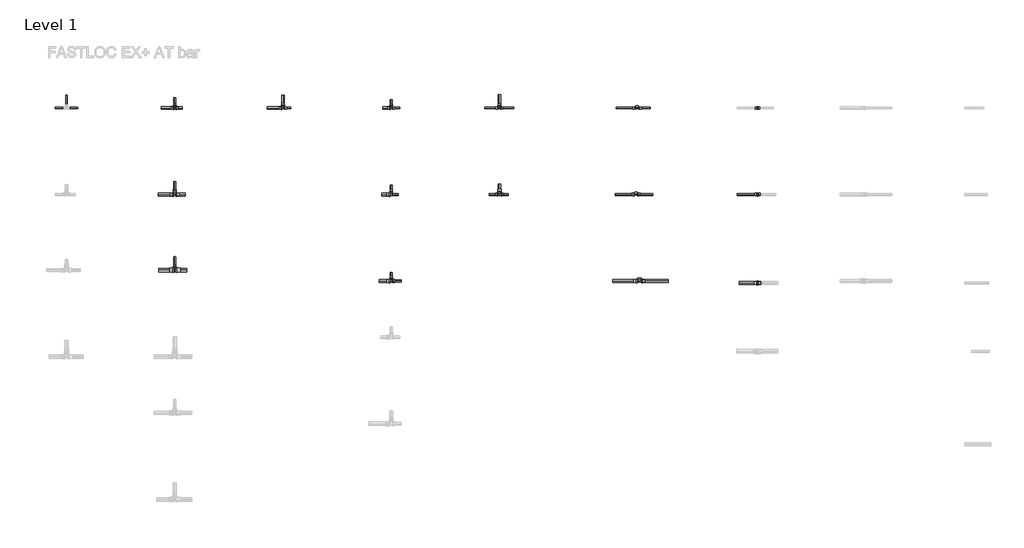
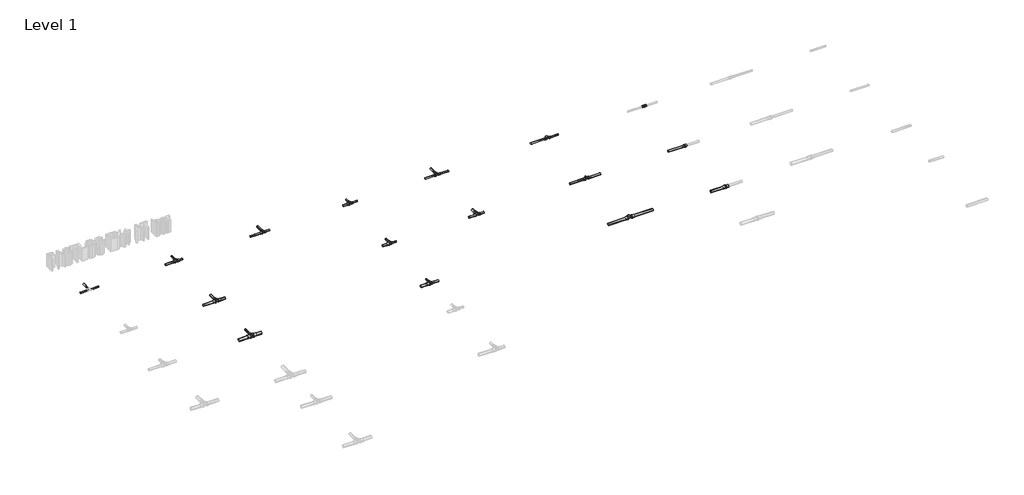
# One storey, part 2 of 16: 38 pipe segments, 15 pipe fittings.
"""IFC4 building model written with IfcOpenShell, lengths in millimetres."""

from ifc_helpers import new_model, si_unit, point, frame, frame_2d, origin, place, context, project, spatial, circle_curve, trimmed, segment, composite_curve, outline, extrude, transform, mapped, element, save
from components import pipe_fitting_78029988, pipe_fitting_15fe286b, pipe_fitting_455e7b61, pipe_fitting_b8b68d19, pipe_fitting_24fba4d8, pipe_fitting_22a72f01, pipe_fitting_0153befe, pipe_fitting_3090ac59, pipe_fitting_8e4805be, pipe_fitting_271ef6d1, pipe_fitting_f7ca1bd1, pipe_fitting_92973462, pipe_fitting_e5d04139, pipe_fitting_f8e3a86c, pipe_fitting_d75665eb

model = new_model("IFC4")

# Units and contexts
model_context = context("Model", 3, world=origin())
ifc_project = project(units=[si_unit("LENGTHUNIT", "METRE", prefix="MILLI")], contexts=[model_context])

# Site, building, storey
site = spatial("IfcSite", under=ifc_project)
building = spatial("IfcBuilding", under=site)
storey = spatial("IfcBuildingStorey", under=building, Name="Level 1", Elevation=0.0)

# Pipe fittings
placement = place(None, origin())
pipe_fitting_shape = pipe_fitting_78029988(model_context)
element("IfcPipeFitting", 1, ObjectType="FASTLOC_T-piece_EX+ : FSL T-Piece EX+ AT", at=placement, inside=storey, context=model_context, shape_type="MappedRepresentation", body=[
    mapped(pipe_fitting_shape, transform((5562.9146925, -6287.6479967, 0.0), x_axis=(1.0, 0.0, 0.0), y_axis=(0.0, 1.0, 0.0), z_axis=(0.0, 0.0, 1.0))),
])
pipe_fitting_2_shape = pipe_fitting_15fe286b(model_context)
element("IfcPipeFitting", 2, ObjectType="FASTLOC_T-piece internal thread EX+ : FSL T thread EX+ AT", at=placement, inside=storey, context=model_context, shape_type="MappedRepresentation", body=[
    mapped(pipe_fitting_2_shape, transform((6834.0203333, -6287.6479967, 0.0), x_axis=(1.0, 0.0, 0.0), y_axis=(0.0, 1.0, 0.0), z_axis=(0.0, 0.0, 1.0))),
])
pipe_fitting_3_shape = pipe_fitting_455e7b61(model_context)
element("IfcPipeFitting", 3, ObjectType="FASTLOC_Coupling equal EX+ : FSL C EX AT", at=placement, inside=storey, context=model_context, shape_type="MappedRepresentation", body=[
    mapped(pipe_fitting_3_shape, transform((7947.6401575, -6287.6479967, 0.0), x_axis=(1.0, 0.0, 0.0), y_axis=(0.0, 1.0, 0.0), z_axis=(0.0, 0.0, 1.0))),
])
pipe_fitting_4_shape = pipe_fitting_b8b68d19(model_context)
element("IfcPipeFitting", 4, ObjectType="FASTLOC_T-piece_EX+ : FSL T-Piece EX+ AT", at=placement, inside=storey, context=model_context, shape_type="MappedRepresentation", body=[
    mapped(pipe_fitting_4_shape, transform((2562.9146925, -6287.6479967, 0.0), x_axis=(1.0, 0.0, 0.0), y_axis=(0.0, 1.0, 0.0), z_axis=(0.0, 0.0, 1.0))),
])
pipe_fitting_5_shape = pipe_fitting_24fba4d8(model_context)
element("IfcPipeFitting", 5, ObjectType="FASTLOC_T-piece_EX+ : FSL T-Piece EX+ AT", at=placement, inside=storey, context=model_context, shape_type="MappedRepresentation", body=[
    mapped(pipe_fitting_5_shape, transform((2562.9146925, -7087.6479967, 0.0), x_axis=(1.0, 0.0, 0.0), y_axis=(0.0, 1.0, 0.0), z_axis=(0.0, 0.0, 1.0))),
])
pipe_fitting_6_shape = pipe_fitting_22a72f01(model_context)
element("IfcPipeFitting", 6, ObjectType="FASTLOC_T-piece_EX+ : FSL T-Piece EX+ AT", at=placement, inside=storey, context=model_context, shape_type="MappedRepresentation", body=[
    mapped(pipe_fitting_6_shape, transform((2562.9146925, -7787.6479967, 0.0), x_axis=(1.0, 0.0, 0.0), y_axis=(0.0, 1.0, 0.0), z_axis=(0.0, 0.0, 1.0))),
])
pipe_fitting_7_shape = pipe_fitting_0153befe(model_context)
element("IfcPipeFitting", 7, ObjectType="FASTLOC_T-piece_EX+ : FSL T-Piece EX+ AT", at=placement, inside=storey, context=model_context, shape_type="MappedRepresentation", body=[
    mapped(pipe_fitting_7_shape, transform((3562.9146925, -6287.6479967, 0.0), x_axis=(1.0, 0.0, 0.0), y_axis=(0.0, 1.0, 0.0), z_axis=(0.0, 0.0, 1.0))),
])
pipe_fitting_8_shape = pipe_fitting_3090ac59(model_context)
element("IfcPipeFitting", 8, ObjectType="FASTLOC_T-piece_EX+ : FSL T-Piece EX+ AT", at=placement, inside=storey, context=model_context, shape_type="MappedRepresentation", body=[
    mapped(pipe_fitting_8_shape, transform((4562.9146925, -6287.6479967, 0.0), x_axis=(1.0, 0.0, 0.0), y_axis=(0.0, 1.0, 0.0), z_axis=(0.0, 0.0, 1.0))),
])
pipe_fitting_9_shape = pipe_fitting_8e4805be(model_context)
element("IfcPipeFitting", 9, ObjectType="FASTLOC_T-piece_EX+ : FSL T-Piece EX+ AT", at=placement, inside=storey, context=model_context, shape_type="MappedRepresentation", body=[
    mapped(pipe_fitting_9_shape, transform((4562.9146925, -7087.6479967, 0.0), x_axis=(1.0, 0.0, 0.0), y_axis=(0.0, 1.0, 0.0), z_axis=(0.0, 0.0, 1.0))),
])
pipe_fitting_10_shape = pipe_fitting_271ef6d1(model_context)
element("IfcPipeFitting", 10, ObjectType="FASTLOC_T-piece_EX+ : FSL T-Piece EX+ AT", at=placement, inside=storey, context=model_context, shape_type="MappedRepresentation", body=[
    mapped(pipe_fitting_10_shape, transform((4562.9146925, -7887.6479967, 0.0), x_axis=(1.0, 0.0, 0.0), y_axis=(0.0, 1.0, 0.0), z_axis=(0.0, 0.0, 1.0))),
])
pipe_fitting_11_shape = pipe_fitting_f7ca1bd1(model_context)
element("IfcPipeFitting", 11, ObjectType="FASTLOC_T-piece_EX+ : FSL T-Piece EX+ AT", at=placement, inside=storey, context=model_context, shape_type="MappedRepresentation", body=[
    mapped(pipe_fitting_11_shape, transform((5562.9146925, -7087.6479967, 0.0), x_axis=(1.0, 0.0, 0.0), y_axis=(0.0, 1.0, 0.0), z_axis=(0.0, 0.0, 1.0))),
])
pipe_fitting_12_shape = pipe_fitting_92973462(model_context)
element("IfcPipeFitting", 12, ObjectType="FASTLOC_T-piece internal thread EX+ : FSL T thread EX+ AT", at=placement, inside=storey, context=model_context, shape_type="MappedRepresentation", body=[
    mapped(pipe_fitting_12_shape, transform((6823.972973, -7087.6479967, 0.0), x_axis=(1.0, 0.0, 0.0), y_axis=(0.0, 1.0, 0.0), z_axis=(0.0, 0.0, 1.0))),
])
pipe_fitting_13_shape = pipe_fitting_e5d04139(model_context)
element("IfcPipeFitting", 13, ObjectType="FASTLOC_T-piece internal thread EX+ : FSL T thread EX+ AT", at=placement, inside=storey, context=model_context, shape_type="MappedRepresentation", body=[
    mapped(pipe_fitting_13_shape, transform((6854.9423493, -7887.6479967, 0.0), x_axis=(1.0, 0.0, 0.0), y_axis=(0.0, 1.0, 0.0), z_axis=(0.0, 0.0, 1.0))),
])
pipe_fitting_14_shape = pipe_fitting_f8e3a86c(model_context)
element("IfcPipeFitting", 14, ObjectType="FASTLOC_Coupling equal EX+ : FSL C EX AT", at=placement, inside=storey, context=model_context, shape_type="MappedRepresentation", body=[
    mapped(pipe_fitting_14_shape, transform((7947.6401575, -7087.6479967, 0.0), x_axis=(1.0, 0.0, 0.0), y_axis=(0.0, 1.0, 0.0), z_axis=(0.0, 0.0, 1.0))),
])
pipe_fitting_15_shape = pipe_fitting_d75665eb(model_context)
element("IfcPipeFitting", 15, ObjectType="FASTLOC_Coupling equal EX+ : FSL C EX AT", at=placement, inside=storey, context=model_context, shape_type="MappedRepresentation", body=[
    mapped(pipe_fitting_15_shape, transform((7947.6401575, -7906.354246, 0.0), x_axis=(1.0, 0.0, 0.0), y_axis=(0.0, 1.0, 0.0), z_axis=(0.0, 0.0, 1.0))),
])

# Pipe segments
element("IfcPipeSegment", 16, ObjectType="FASTLOC EX+ ML AT bar", at=placement, inside=storey, context=model_context, shape_type="SweptSolid", body=[
    extrude(outline(composite_curve([segment(trimmed(circle_curve(frame_2d((-7087.6479967, 0.0)), 10.0), [point((-7077.6479967, 0.0))], [point((-7087.6479967, -10.0))], False, "CARTESIAN"), True, "CONTINUOUS"), segment(trimmed(circle_curve(frame_2d((-7087.6479967, 0.0)), 10.0), [point((-7087.6479967, -10.0))], [point((-7097.6479967, 0.0))], False, "CARTESIAN"), True, "CONTINUOUS"), segment(trimmed(circle_curve(frame_2d((-7087.6479967, 0.0)), 10.0), [point((-7097.6479967, 0.0))], [point((-7087.6479967, 10.0))], False, "CARTESIAN"), True, "CONTINUOUS"), segment(trimmed(circle_curve(frame_2d((-7087.6479967, 0.0)), 10.0), [point((-7087.6479967, 10.0))], [point((-7077.6479967, 0.0))], False, "CARTESIAN"), True, "CONTINUOUS")], self_intersect=False)), frame((7760.4401575, 0.0, 0.0), z_axis=(1.0, 0.0, 0.0), x_axis=(0.0, 1.0, 0.0)), (0.0, 0.0, 1.0), 179.8),
])
element("IfcPipeSegment", 17, ObjectType="FASTLOC EX+ ML AT bar", at=placement, inside=storey, context=model_context, shape_type="SweptSolid", body=[
    extrude(outline(composite_curve([segment(trimmed(circle_curve(frame_2d((-7906.354246, 0.0)), 12.5), [point((-7893.854246, 0.0))], [point((-7906.354246, -12.5))], False, "CARTESIAN"), True, "CONTINUOUS"), segment(trimmed(circle_curve(frame_2d((-7906.354246, 0.0)), 12.5), [point((-7906.354246, -12.5))], [point((-7918.854246, 0.0))], False, "CARTESIAN"), True, "CONTINUOUS"), segment(trimmed(circle_curve(frame_2d((-7906.354246, 0.0)), 12.5), [point((-7918.854246, 0.0))], [point((-7906.354246, 12.5))], False, "CARTESIAN"), True, "CONTINUOUS"), segment(trimmed(circle_curve(frame_2d((-7906.354246, 0.0)), 12.5), [point((-7906.354246, 12.5))], [point((-7893.854246, 0.0))], False, "CARTESIAN"), True, "CONTINUOUS")], self_intersect=False)), frame((7779.6401575, 0.0, 0.0), z_axis=(1.0, 0.0, 0.0), x_axis=(0.0, 1.0, 0.0)), (0.0, 0.0, 1.0), 160.0),
])
element("IfcPipeSegment", 18, ObjectType="FASTLOC EX+ ML AT bar", at=placement, inside=storey, context=model_context, shape_type="SweptSolid", body=[
    extrude(outline(composite_curve([segment(trimmed(circle_curve(frame_2d((-7887.6479967, 0.0)), 12.5), [point((-7900.1479967, 0.0))], [point((-7887.6479967, 12.5))], False, "CARTESIAN"), True, "CONTINUOUS"), segment(trimmed(circle_curve(frame_2d((-7887.6479967, 0.0)), 12.5), [point((-7887.6479967, 12.5))], [point((-7875.1479967, 0.0))], False, "CARTESIAN"), True, "CONTINUOUS"), segment(trimmed(circle_curve(frame_2d((-7887.6479967, 0.0)), 12.5), [point((-7875.1479967, 0.0))], [point((-7887.6479967, -12.5))], False, "CARTESIAN"), True, "CONTINUOUS"), segment(trimmed(circle_curve(frame_2d((-7887.6479967, 0.0)), 12.5), [point((-7887.6479967, -12.5))], [point((-7900.1479967, 0.0))], False, "CARTESIAN"), True, "CONTINUOUS")], self_intersect=False)), frame((6881.6423493, 0.0, 0.0), z_axis=(1.0, 0.0, 0.0), x_axis=(0.0, 1.0, 0.0)), (0.0, 0.0, 1.0), 240.0),
])
element("IfcPipeSegment", 19, ObjectType="FASTLOC EX+ ML AT bar", at=placement, inside=storey, context=model_context, shape_type="SweptSolid", body=[
    extrude(outline(composite_curve([segment(trimmed(circle_curve(frame_2d((-7887.6479967, 0.0)), 12.5), [point((-7875.1479967, 0.0))], [point((-7887.6479967, -12.5))], False, "CARTESIAN"), True, "CONTINUOUS"), segment(trimmed(circle_curve(frame_2d((-7887.6479967, 0.0)), 12.5), [point((-7887.6479967, -12.5))], [point((-7900.1479967, 0.0))], False, "CARTESIAN"), True, "CONTINUOUS"), segment(trimmed(circle_curve(frame_2d((-7887.6479967, 0.0)), 12.5), [point((-7900.1479967, 0.0))], [point((-7887.6479967, 12.5))], False, "CARTESIAN"), True, "CONTINUOUS"), segment(trimmed(circle_curve(frame_2d((-7887.6479967, 0.0)), 12.5), [point((-7887.6479967, 12.5))], [point((-7875.1479967, 0.0))], False, "CARTESIAN"), True, "CONTINUOUS")], self_intersect=False)), frame((6608.2423493, 0.0, 0.0), z_axis=(1.0, 0.0, 0.0), x_axis=(0.0, 1.0, 0.0)), (0.0, 0.0, 1.0), 220.0),
])
element("IfcPipeSegment", 20, ObjectType="FASTLOC EX+ ML AT bar", at=placement, inside=storey, context=model_context, shape_type="SweptSolid", body=[
    extrude(outline(composite_curve([segment(trimmed(circle_curve(frame_2d((-7087.6479967, 0.0)), 10.0), [point((-7097.6479967, 0.0))], [point((-7087.6479967, 10.0))], False, "CARTESIAN"), True, "CONTINUOUS"), segment(trimmed(circle_curve(frame_2d((-7087.6479967, 0.0)), 10.0), [point((-7087.6479967, 10.0))], [point((-7077.6479967, 0.0))], False, "CARTESIAN"), True, "CONTINUOUS"), segment(trimmed(circle_curve(frame_2d((-7087.6479967, 0.0)), 10.0), [point((-7077.6479967, 0.0))], [point((-7087.6479967, -10.0))], False, "CARTESIAN"), True, "CONTINUOUS"), segment(trimmed(circle_curve(frame_2d((-7087.6479967, 0.0)), 10.0), [point((-7087.6479967, -10.0))], [point((-7097.6479967, 0.0))], False, "CARTESIAN"), True, "CONTINUOUS")], self_intersect=False)), frame((6846.472973, 0.0, 0.0), z_axis=(1.0, 0.0, 0.0), x_axis=(0.0, 1.0, 0.0)), (0.0, 0.0, 1.0), 135.0),
])
element("IfcPipeSegment", 21, ObjectType="FASTLOC EX+ ML AT bar", at=placement, inside=storey, context=model_context, shape_type="SweptSolid", body=[
    extrude(outline(composite_curve([segment(trimmed(circle_curve(frame_2d((-7087.6479967, 0.0)), 10.0), [point((-7077.6479967, 0.0))], [point((-7087.6479967, -10.0))], False, "CARTESIAN"), True, "CONTINUOUS"), segment(trimmed(circle_curve(frame_2d((-7087.6479967, 0.0)), 10.0), [point((-7087.6479967, -10.0))], [point((-7097.6479967, 0.0))], False, "CARTESIAN"), True, "CONTINUOUS"), segment(trimmed(circle_curve(frame_2d((-7087.6479967, 0.0)), 10.0), [point((-7097.6479967, 0.0))], [point((-7087.6479967, 10.0))], False, "CARTESIAN"), True, "CONTINUOUS"), segment(trimmed(circle_curve(frame_2d((-7087.6479967, 0.0)), 10.0), [point((-7087.6479967, 10.0))], [point((-7077.6479967, 0.0))], False, "CARTESIAN"), True, "CONTINUOUS")], self_intersect=False)), frame((6631.472973, 0.0, 0.0), z_axis=(1.0, 0.0, 0.0), x_axis=(0.0, 1.0, 0.0)), (0.0, 0.0, 1.0), 170.0),
])
element("IfcPipeSegment", 22, ObjectType="FASTLOC EX+ ML AT bar", at=placement, inside=storey, context=model_context, shape_type="SweptSolid", body=[
    extrude(outline(composite_curve([segment(trimmed(circle_curve(frame_2d((-6287.6479967, 0.0)), 8.0), [point((-6295.6479967, 0.0))], [point((-6287.6479967, 8.0))], False, "CARTESIAN"), True, "CONTINUOUS"), segment(trimmed(circle_curve(frame_2d((-6287.6479967, 0.0)), 8.0), [point((-6287.6479967, 8.0))], [point((-6279.6479967, 0.0))], False, "CARTESIAN"), True, "CONTINUOUS"), segment(trimmed(circle_curve(frame_2d((-6287.6479967, 0.0)), 8.0), [point((-6279.6479967, 0.0))], [point((-6287.6479967, -8.0))], False, "CARTESIAN"), True, "CONTINUOUS"), segment(trimmed(circle_curve(frame_2d((-6287.6479967, 0.0)), 8.0), [point((-6287.6479967, -8.0))], [point((-6295.6479967, 0.0))], False, "CARTESIAN"), True, "CONTINUOUS")], self_intersect=False)), frame((6856.0203333, 0.0, 0.0), z_axis=(1.0, 0.0, 0.0), x_axis=(0.0, 1.0, 0.0)), (0.0, 0.0, 1.0), 100.0),
])
element("IfcPipeSegment", 23, ObjectType="FASTLOC EX+ ML AT bar", at=placement, inside=storey, context=model_context, shape_type="SweptSolid", body=[
    extrude(outline(composite_curve([segment(trimmed(circle_curve(frame_2d((-6287.6479967, 0.0)), 8.0), [point((-6279.6479967, 0.0))], [point((-6287.6479967, -8.0))], False, "CARTESIAN"), True, "CONTINUOUS"), segment(trimmed(circle_curve(frame_2d((-6287.6479967, 0.0)), 8.0), [point((-6287.6479967, -8.0))], [point((-6295.6479967, 0.0))], False, "CARTESIAN"), True, "CONTINUOUS"), segment(trimmed(circle_curve(frame_2d((-6287.6479967, 0.0)), 8.0), [point((-6295.6479967, 0.0))], [point((-6287.6479967, 8.0))], False, "CARTESIAN"), True, "CONTINUOUS"), segment(trimmed(circle_curve(frame_2d((-6287.6479967, 0.0)), 8.0), [point((-6287.6479967, 8.0))], [point((-6279.6479967, 0.0))], False, "CARTESIAN"), True, "CONTINUOUS")], self_intersect=False)), frame((6642.0203333, 0.0, 0.0), z_axis=(1.0, 0.0, 0.0), x_axis=(0.0, 1.0, 0.0)), (0.0, 0.0, 1.0), 170.0),
])
element("IfcPipeSegment", 24, ObjectType="FASTLOC EX+ ML AT bar", at=placement, inside=storey, context=model_context, shape_type="SweptSolid", body=[
    extrude(outline(composite_curve([segment(trimmed(circle_curve(frame_2d((-6287.6479967, 0.0)), 8.0), [point((-6295.6479967, 0.0))], [point((-6287.6479967, 8.0))], False, "CARTESIAN"), True, "CONTINUOUS"), segment(trimmed(circle_curve(frame_2d((-6287.6479967, 0.0)), 8.0), [point((-6287.6479967, 8.0))], [point((-6279.6479967, 0.0))], False, "CARTESIAN"), True, "CONTINUOUS"), segment(trimmed(circle_curve(frame_2d((-6287.6479967, 0.0)), 8.0), [point((-6279.6479967, 0.0))], [point((-6287.6479967, -8.0))], False, "CARTESIAN"), True, "CONTINUOUS"), segment(trimmed(circle_curve(frame_2d((-6287.6479967, 0.0)), 8.0), [point((-6287.6479967, -8.0))], [point((-6295.6479967, 0.0))], False, "CARTESIAN"), True, "CONTINUOUS")], self_intersect=False)), frame((5579.8146925, 0.0, 0.0), z_axis=(1.0, 0.0, 0.0), x_axis=(0.0, 1.0, 0.0)), (0.0, 0.0, 1.0), 115.34),
])
element("IfcPipeSegment", 25, ObjectType="FASTLOC EX+ ML AT bar", at=placement, inside=storey, context=model_context, shape_type="SweptSolid", body=[
    extrude(outline(composite_curve([segment(trimmed(circle_curve(frame_2d((-6287.6479967, 0.0)), 8.0), [point((-6279.6479967, 0.0))], [point((-6287.6479967, -8.0))], False, "CARTESIAN"), True, "CONTINUOUS"), segment(trimmed(circle_curve(frame_2d((-6287.6479967, 0.0)), 8.0), [point((-6287.6479967, -8.0))], [point((-6295.6479967, 0.0))], False, "CARTESIAN"), True, "CONTINUOUS"), segment(trimmed(circle_curve(frame_2d((-6287.6479967, 0.0)), 8.0), [point((-6295.6479967, 0.0))], [point((-6287.6479967, 8.0))], False, "CARTESIAN"), True, "CONTINUOUS"), segment(trimmed(circle_curve(frame_2d((-6287.6479967, 0.0)), 8.0), [point((-6287.6479967, 8.0))], [point((-6279.6479967, 0.0))], False, "CARTESIAN"), True, "CONTINUOUS")], self_intersect=False)), frame((5426.0146925, 0.0, 0.0), z_axis=(1.0, 0.0, 0.0), x_axis=(0.0, 1.0, 0.0)), (0.0, 0.0, 1.0), 120.0),
])
element("IfcPipeSegment", 26, ObjectType="FASTLOC EX+ ML AT bar", at=placement, inside=storey, context=model_context, shape_type="SweptSolid", body=[
    extrude(outline(composite_curve([segment(trimmed(circle_curve(frame_2d((0.0, 5562.9146925)), 10.0), [point((0.0, 5572.9146925))], [point((10.0, 5562.9146925))], False, "CARTESIAN"), True, "CONTINUOUS"), segment(trimmed(circle_curve(frame_2d((0.0, 5562.9146925)), 10.0), [point((10.0, 5562.9146925))], [point((0.0, 5552.9146925))], False, "CARTESIAN"), True, "CONTINUOUS"), segment(trimmed(circle_curve(frame_2d((0.0, 5562.9146925)), 10.0), [point((0.0, 5552.9146925))], [point((-10.0, 5562.9146925))], False, "CARTESIAN"), True, "CONTINUOUS"), segment(trimmed(circle_curve(frame_2d((0.0, 5562.9146925)), 10.0), [point((-10.0, 5562.9146925))], [point((0.0, 5572.9146925))], False, "CARTESIAN"), True, "CONTINUOUS")], self_intersect=False)), frame((0.0, -6265.3479967, 0.0), z_axis=(0.0, 1.0, 0.0), x_axis=(0.0, 0.0, 1.0)), (0.0, 0.0, 1.0), 100.0),
])
element("IfcPipeSegment", 27, ObjectType="FASTLOC EX+ ML AT bar", at=placement, inside=storey, context=model_context, shape_type="SweptSolid", body=[
    extrude(outline(composite_curve([segment(trimmed(circle_curve(frame_2d((-7087.6479967, 0.0)), 10.0), [point((-7077.6479967, 0.0))], [point((-7087.6479967, -10.0))], False, "CARTESIAN"), True, "CONTINUOUS"), segment(trimmed(circle_curve(frame_2d((-7087.6479967, 0.0)), 10.0), [point((-7087.6479967, -10.0))], [point((-7097.6479967, 0.0))], False, "CARTESIAN"), True, "CONTINUOUS"), segment(trimmed(circle_curve(frame_2d((-7087.6479967, 0.0)), 10.0), [point((-7097.6479967, 0.0))], [point((-7087.6479967, 10.0))], False, "CARTESIAN"), True, "CONTINUOUS"), segment(trimmed(circle_curve(frame_2d((-7087.6479967, 0.0)), 10.0), [point((-7087.6479967, 10.0))], [point((-7077.6479967, 0.0))], False, "CARTESIAN"), True, "CONTINUOUS")], self_intersect=False)), frame((5468.9146925, 0.0, 0.0), z_axis=(1.0, 0.0, 0.0), x_axis=(0.0, 1.0, 0.0)), (0.0, 0.0, 1.0), 75.0),
])
element("IfcPipeSegment", 28, ObjectType="FASTLOC EX+ ML AT bar", at=placement, inside=storey, context=model_context, shape_type="SweptSolid", body=[
    extrude(outline(composite_curve([segment(trimmed(circle_curve(frame_2d((-7087.6479967, 0.0)), 10.0), [point((-7097.6479967, 0.0))], [point((-7087.6479967, 10.0))], False, "CARTESIAN"), True, "CONTINUOUS"), segment(trimmed(circle_curve(frame_2d((-7087.6479967, 0.0)), 10.0), [point((-7087.6479967, 10.0))], [point((-7077.6479967, 0.0))], False, "CARTESIAN"), True, "CONTINUOUS"), segment(trimmed(circle_curve(frame_2d((-7087.6479967, 0.0)), 10.0), [point((-7077.6479967, 0.0))], [point((-7087.6479967, -10.0))], False, "CARTESIAN"), True, "CONTINUOUS"), segment(trimmed(circle_curve(frame_2d((-7087.6479967, 0.0)), 10.0), [point((-7087.6479967, -10.0))], [point((-7097.6479967, 0.0))], False, "CARTESIAN"), True, "CONTINUOUS")], self_intersect=False)), frame((5581.9146925, 0.0, 0.0), z_axis=(1.0, 0.0, 0.0), x_axis=(0.0, 1.0, 0.0)), (0.0, 0.0, 1.0), 60.0),
])
element("IfcPipeSegment", 29, ObjectType="FASTLOC EX+ ML AT bar", at=placement, inside=storey, context=model_context, shape_type="SweptSolid", body=[
    extrude(outline(composite_curve([segment(trimmed(circle_curve(frame_2d((0.0, 5562.9146925)), 12.5), [point((0.0, 5575.4146925))], [point((12.5, 5562.9146925))], False, "CARTESIAN"), True, "CONTINUOUS"), segment(trimmed(circle_curve(frame_2d((0.0, 5562.9146925)), 12.5), [point((12.5, 5562.9146925))], [point((0.0, 5550.4146925))], False, "CARTESIAN"), True, "CONTINUOUS"), segment(trimmed(circle_curve(frame_2d((0.0, 5562.9146925)), 12.5), [point((0.0, 5550.4146925))], [point((-12.5, 5562.9146925))], False, "CARTESIAN"), True, "CONTINUOUS"), segment(trimmed(circle_curve(frame_2d((0.0, 5562.9146925)), 12.5), [point((-12.5, 5562.9146925))], [point((0.0, 5575.4146925))], False, "CARTESIAN"), True, "CONTINUOUS")], self_intersect=False)), frame((0.0, -7060.8479967, 0.0), z_axis=(0.0, 1.0, 0.0), x_axis=(0.0, 0.0, 1.0)), (0.0, 0.0, 1.0), 70.0),
])
element("IfcPipeSegment", 30, ObjectType="FASTLOC EX+ ML AT bar", at=placement, inside=storey, context=model_context, shape_type="SweptSolid", body=[
    extrude(outline(composite_curve([segment(trimmed(circle_curve(frame_2d((-6287.6479967, 0.0)), 10.0), [point((-6277.6479967, 0.0))], [point((-6287.6479967, -10.0))], False, "CARTESIAN"), True, "CONTINUOUS"), segment(trimmed(circle_curve(frame_2d((-6287.6479967, 0.0)), 10.0), [point((-6287.6479967, -10.0))], [point((-6297.6479967, 0.0))], False, "CARTESIAN"), True, "CONTINUOUS"), segment(trimmed(circle_curve(frame_2d((-6287.6479967, 0.0)), 10.0), [point((-6297.6479967, 0.0))], [point((-6287.6479967, 10.0))], False, "CARTESIAN"), True, "CONTINUOUS"), segment(trimmed(circle_curve(frame_2d((-6287.6479967, 0.0)), 10.0), [point((-6287.6479967, 10.0))], [point((-6277.6479967, 0.0))], False, "CARTESIAN"), True, "CONTINUOUS")], self_intersect=False)), frame((4482.4146925, 0.0, 0.0), z_axis=(1.0, 0.0, 0.0), x_axis=(0.0, 1.0, 0.0)), (0.0, 0.0, 1.0), 65.0),
])
element("IfcPipeSegment", 31, ObjectType="FASTLOC EX+ ML AT bar", at=placement, inside=storey, context=model_context, shape_type="SweptSolid", body=[
    extrude(outline(composite_curve([segment(trimmed(circle_curve(frame_2d((0.0, 4562.9146925)), 8.0), [point((0.0, 4570.9146925))], [point((8.0, 4562.9146925))], False, "CARTESIAN"), True, "CONTINUOUS"), segment(trimmed(circle_curve(frame_2d((0.0, 4562.9146925)), 8.0), [point((8.0, 4562.9146925))], [point((0.0, 4554.9146925))], False, "CARTESIAN"), True, "CONTINUOUS"), segment(trimmed(circle_curve(frame_2d((0.0, 4562.9146925)), 8.0), [point((0.0, 4554.9146925))], [point((-8.0, 4562.9146925))], False, "CARTESIAN"), True, "CONTINUOUS"), segment(trimmed(circle_curve(frame_2d((0.0, 4562.9146925)), 8.0), [point((-8.0, 4562.9146925))], [point((0.0, 4570.9146925))], False, "CARTESIAN"), True, "CONTINUOUS")], self_intersect=False)), frame((0.0, -6261.2479967, 0.0), z_axis=(0.0, 1.0, 0.0), x_axis=(0.0, 0.0, 1.0)), (0.0, 0.0, 1.0), 50.0),
])
element("IfcPipeSegment", 32, ObjectType="FASTLOC EX+ ML AT bar", at=placement, inside=storey, context=model_context, shape_type="SweptSolid", body=[
    extrude(outline(composite_curve([segment(trimmed(circle_curve(frame_2d((-6287.6479967, 0.0)), 8.0), [point((-6295.6479967, 0.0))], [point((-6287.6479967, 8.0))], False, "CARTESIAN"), True, "CONTINUOUS"), segment(trimmed(circle_curve(frame_2d((-6287.6479967, 0.0)), 8.0), [point((-6287.6479967, 8.0))], [point((-6279.6479967, 0.0))], False, "CARTESIAN"), True, "CONTINUOUS"), segment(trimmed(circle_curve(frame_2d((-6287.6479967, 0.0)), 8.0), [point((-6279.6479967, 0.0))], [point((-6287.6479967, -8.0))], False, "CARTESIAN"), True, "CONTINUOUS"), segment(trimmed(circle_curve(frame_2d((-6287.6479967, 0.0)), 8.0), [point((-6287.6479967, -8.0))], [point((-6295.6479967, 0.0))], False, "CARTESIAN"), True, "CONTINUOUS")], self_intersect=False)), frame((4578.0146925, 0.0, 0.0), z_axis=(1.0, 0.0, 0.0), x_axis=(0.0, 1.0, 0.0)), (0.0, 0.0, 1.0), 65.0),
])
element("IfcPipeSegment", 33, ObjectType="FASTLOC EX+ ML AT bar", at=placement, inside=storey, context=model_context, shape_type="SweptSolid", body=[
    extrude(outline(composite_curve([segment(trimmed(circle_curve(frame_2d((-7087.6479967, 0.0)), 8.0), [point((-7095.6479967, 0.0))], [point((-7087.6479967, 8.0))], False, "CARTESIAN"), True, "CONTINUOUS"), segment(trimmed(circle_curve(frame_2d((-7087.6479967, 0.0)), 8.0), [point((-7087.6479967, 8.0))], [point((-7079.6479967, 0.0))], False, "CARTESIAN"), True, "CONTINUOUS"), segment(trimmed(circle_curve(frame_2d((-7087.6479967, 0.0)), 8.0), [point((-7079.6479967, 0.0))], [point((-7087.6479967, -8.0))], False, "CARTESIAN"), True, "CONTINUOUS"), segment(trimmed(circle_curve(frame_2d((-7087.6479967, 0.0)), 8.0), [point((-7087.6479967, -8.0))], [point((-7095.6479967, 0.0))], False, "CARTESIAN"), True, "CONTINUOUS")], self_intersect=False)), frame((4578.0146925, 0.0, 0.0), z_axis=(1.0, 0.0, 0.0), x_axis=(0.0, 1.0, 0.0)), (0.0, 0.0, 1.0), 51.7891439),
])
element("IfcPipeSegment", 34, ObjectType="FASTLOC EX+ ML AT bar", at=placement, inside=storey, context=model_context, shape_type="SweptSolid", body=[
    extrude(outline(composite_curve([segment(trimmed(circle_curve(frame_2d((-7087.6479967, 0.0)), 12.5), [point((-7075.1479967, 0.0))], [point((-7087.6479967, -12.5))], False, "CARTESIAN"), True, "CONTINUOUS"), segment(trimmed(circle_curve(frame_2d((-7087.6479967, 0.0)), 12.5), [point((-7087.6479967, -12.5))], [point((-7100.1479967, 0.0))], False, "CARTESIAN"), True, "CONTINUOUS"), segment(trimmed(circle_curve(frame_2d((-7087.6479967, 0.0)), 12.5), [point((-7100.1479967, 0.0))], [point((-7087.6479967, 12.5))], False, "CARTESIAN"), True, "CONTINUOUS"), segment(trimmed(circle_curve(frame_2d((-7087.6479967, 0.0)), 12.5), [point((-7087.6479967, 12.5))], [point((-7075.1479967, 0.0))], False, "CARTESIAN"), True, "CONTINUOUS")], self_intersect=False)), frame((4476.5146925, 0.0, 0.0), z_axis=(1.0, 0.0, 0.0), x_axis=(0.0, 1.0, 0.0)), (0.0, 0.0, 1.0), 70.0),
])
element("IfcPipeSegment", 35, ObjectType="FASTLOC EX+ ML AT bar", at=placement, inside=storey, context=model_context, shape_type="SweptSolid", body=[
    extrude(outline(composite_curve([segment(trimmed(circle_curve(frame_2d((0.0, 4562.9146925)), 8.0), [point((0.0, 4570.9146925))], [point((8.0, 4562.9146925))], False, "CARTESIAN"), True, "CONTINUOUS"), segment(trimmed(circle_curve(frame_2d((0.0, 4562.9146925)), 8.0), [point((8.0, 4562.9146925))], [point((0.0, 4554.9146925))], False, "CARTESIAN"), True, "CONTINUOUS"), segment(trimmed(circle_curve(frame_2d((0.0, 4562.9146925)), 8.0), [point((0.0, 4554.9146925))], [point((-8.0, 4562.9146925))], False, "CARTESIAN"), True, "CONTINUOUS"), segment(trimmed(circle_curve(frame_2d((0.0, 4562.9146925)), 8.0), [point((-8.0, 4562.9146925))], [point((0.0, 4570.9146925))], False, "CARTESIAN"), True, "CONTINUOUS")], self_intersect=False)), frame((0.0, -7058.5479967, 0.0), z_axis=(0.0, 1.0, 0.0), x_axis=(0.0, 0.0, 1.0)), (0.0, 0.0, 1.0), 57.2788778),
])
element("IfcPipeSegment", 36, ObjectType="FASTLOC EX+ ML AT bar", at=placement, inside=storey, context=model_context, shape_type="SweptSolid", body=[
    extrude(outline(composite_curve([segment(trimmed(circle_curve(frame_2d((-7887.6479967, 0.0)), 10.0), [point((-7897.6479967, 0.0))], [point((-7887.6479967, 10.0))], False, "CARTESIAN"), True, "CONTINUOUS"), segment(trimmed(circle_curve(frame_2d((-7887.6479967, 0.0)), 10.0), [point((-7887.6479967, 10.0))], [point((-7877.6479967, 0.0))], False, "CARTESIAN"), True, "CONTINUOUS"), segment(trimmed(circle_curve(frame_2d((-7887.6479967, 0.0)), 10.0), [point((-7877.6479967, 0.0))], [point((-7887.6479967, -10.0))], False, "CARTESIAN"), True, "CONTINUOUS"), segment(trimmed(circle_curve(frame_2d((-7887.6479967, 0.0)), 10.0), [point((-7887.6479967, -10.0))], [point((-7897.6479967, 0.0))], False, "CARTESIAN"), True, "CONTINUOUS")], self_intersect=False)), frame((4578.4146925, 0.0, 0.0), z_axis=(1.0, 0.0, 0.0), x_axis=(0.0, 1.0, 0.0)), (0.0, 0.0, 1.0), 75.0),
])
element("IfcPipeSegment", 37, ObjectType="FASTLOC EX+ ML AT bar", at=placement, inside=storey, context=model_context, shape_type="SweptSolid", body=[
    extrude(outline(composite_curve([segment(trimmed(circle_curve(frame_2d((0.0, 4562.9146925)), 8.0), [point((0.0, 4570.9146925))], [point((8.0, 4562.9146925))], False, "CARTESIAN"), True, "CONTINUOUS"), segment(trimmed(circle_curve(frame_2d((0.0, 4562.9146925)), 8.0), [point((8.0, 4562.9146925))], [point((0.0, 4554.9146925))], False, "CARTESIAN"), True, "CONTINUOUS"), segment(trimmed(circle_curve(frame_2d((0.0, 4562.9146925)), 8.0), [point((0.0, 4554.9146925))], [point((-8.0, 4562.9146925))], False, "CARTESIAN"), True, "CONTINUOUS"), segment(trimmed(circle_curve(frame_2d((0.0, 4562.9146925)), 8.0), [point((-8.0, 4562.9146925))], [point((0.0, 4570.9146925))], False, "CARTESIAN"), True, "CONTINUOUS")], self_intersect=False)), frame((0.0, -7858.5479967, 0.0), z_axis=(0.0, 1.0, 0.0), x_axis=(0.0, 0.0, 1.0)), (0.0, 0.0, 1.0), 50.0),
])
element("IfcPipeSegment", 38, ObjectType="FASTLOC EX+ ML AT bar", at=placement, inside=storey, context=model_context, shape_type="SweptSolid", body=[
    extrude(outline(composite_curve([segment(trimmed(circle_curve(frame_2d((-7887.6479967, 0.0)), 12.5), [point((-7875.1479967, 0.0))], [point((-7887.6479967, -12.5))], False, "CARTESIAN"), True, "CONTINUOUS"), segment(trimmed(circle_curve(frame_2d((-7887.6479967, 0.0)), 12.5), [point((-7887.6479967, -12.5))], [point((-7900.1479967, 0.0))], False, "CARTESIAN"), True, "CONTINUOUS"), segment(trimmed(circle_curve(frame_2d((-7887.6479967, 0.0)), 12.5), [point((-7900.1479967, 0.0))], [point((-7887.6479967, 12.5))], False, "CARTESIAN"), True, "CONTINUOUS"), segment(trimmed(circle_curve(frame_2d((-7887.6479967, 0.0)), 12.5), [point((-7887.6479967, 12.5))], [point((-7875.1479967, 0.0))], False, "CARTESIAN"), True, "CONTINUOUS")], self_intersect=False)), frame((4451.5146925, 0.0, 0.0), z_axis=(1.0, 0.0, 0.0), x_axis=(0.0, 1.0, 0.0)), (0.0, 0.0, 1.0), 95.0),
])
element("IfcPipeSegment", 39, ObjectType="FASTLOC EX+ ML AT bar", at=placement, inside=storey, context=model_context, shape_type="SweptSolid", body=[
    extrude(outline(composite_curve([segment(trimmed(circle_curve(frame_2d((-6287.6479967, 0.0)), 8.0), [point((-6295.6479967, 0.0))], [point((-6287.6479967, 8.0))], False, "CARTESIAN"), True, "CONTINUOUS"), segment(trimmed(circle_curve(frame_2d((-6287.6479967, 0.0)), 8.0), [point((-6287.6479967, 8.0))], [point((-6279.6479967, 0.0))], False, "CARTESIAN"), True, "CONTINUOUS"), segment(trimmed(circle_curve(frame_2d((-6287.6479967, 0.0)), 8.0), [point((-6279.6479967, 0.0))], [point((-6287.6479967, -8.0))], False, "CARTESIAN"), True, "CONTINUOUS"), segment(trimmed(circle_curve(frame_2d((-6287.6479967, 0.0)), 8.0), [point((-6287.6479967, -8.0))], [point((-6295.6479967, 0.0))], False, "CARTESIAN"), True, "CONTINUOUS")], self_intersect=False)), frame((3579.9146925, 0.0, 0.0), z_axis=(1.0, 0.0, 0.0), x_axis=(0.0, 1.0, 0.0)), (0.0, 0.0, 1.0), 55.0),
])
element("IfcPipeSegment", 40, ObjectType="FASTLOC EX+ ML AT bar", at=placement, inside=storey, context=model_context, shape_type="SweptSolid", body=[
    extrude(outline(composite_curve([segment(trimmed(circle_curve(frame_2d((0.0, 3562.9146925)), 10.0), [point((0.0, 3572.9146925))], [point((10.0, 3562.9146925))], False, "CARTESIAN"), True, "CONTINUOUS"), segment(trimmed(circle_curve(frame_2d((0.0, 3562.9146925)), 10.0), [point((10.0, 3562.9146925))], [point((0.0, 3552.9146925))], False, "CARTESIAN"), True, "CONTINUOUS"), segment(trimmed(circle_curve(frame_2d((0.0, 3562.9146925)), 10.0), [point((0.0, 3552.9146925))], [point((-10.0, 3562.9146925))], False, "CARTESIAN"), True, "CONTINUOUS"), segment(trimmed(circle_curve(frame_2d((0.0, 3562.9146925)), 10.0), [point((-10.0, 3562.9146925))], [point((0.0, 3572.9146925))], False, "CARTESIAN"), True, "CONTINUOUS")], self_intersect=False)), frame((0.0, -6261.2479967, 0.0), z_axis=(0.0, 1.0, 0.0), x_axis=(0.0, 0.0, 1.0)), (0.0, 0.0, 1.0), 90.0),
])
element("IfcPipeSegment", 41, ObjectType="FASTLOC EX+ ML AT bar", at=placement, inside=storey, context=model_context, shape_type="SweptSolid", body=[
    extrude(outline(composite_curve([segment(trimmed(circle_curve(frame_2d((-6287.6479967, 0.0)), 10.0), [point((-6277.6479967, 0.0))], [point((-6287.6479967, -10.0))], False, "CARTESIAN"), True, "CONTINUOUS"), segment(trimmed(circle_curve(frame_2d((-6287.6479967, 0.0)), 10.0), [point((-6287.6479967, -10.0))], [point((-6297.6479967, 0.0))], False, "CARTESIAN"), True, "CONTINUOUS"), segment(trimmed(circle_curve(frame_2d((-6287.6479967, 0.0)), 10.0), [point((-6297.6479967, 0.0))], [point((-6287.6479967, 10.0))], False, "CARTESIAN"), True, "CONTINUOUS"), segment(trimmed(circle_curve(frame_2d((-6287.6479967, 0.0)), 10.0), [point((-6287.6479967, 10.0))], [point((-6277.6479967, 0.0))], False, "CARTESIAN"), True, "CONTINUOUS")], self_intersect=False)), frame((3415.5146925, 0.0, 0.0), z_axis=(1.0, 0.0, 0.0), x_axis=(0.0, 1.0, 0.0)), (0.0, 0.0, 1.0), 130.0),
])
element("IfcPipeSegment", 42, ObjectType="FASTLOC EX+ ML AT bar", at=placement, inside=storey, context=model_context, shape_type="SweptSolid", body=[
    extrude(outline(composite_curve([segment(trimmed(circle_curve(frame_2d((-6287.6479967, 0.0)), 10.0), [point((-6297.6479967, 0.0))], [point((-6287.6479967, 10.0))], False, "CARTESIAN"), True, "CONTINUOUS"), segment(trimmed(circle_curve(frame_2d((-6287.6479967, 0.0)), 10.0), [point((-6287.6479967, 10.0))], [point((-6277.6479967, 0.0))], False, "CARTESIAN"), True, "CONTINUOUS"), segment(trimmed(circle_curve(frame_2d((-6287.6479967, 0.0)), 10.0), [point((-6277.6479967, 0.0))], [point((-6287.6479967, -10.0))], False, "CARTESIAN"), True, "CONTINUOUS"), segment(trimmed(circle_curve(frame_2d((-6287.6479967, 0.0)), 10.0), [point((-6287.6479967, -10.0))], [point((-6297.6479967, 0.0))], False, "CARTESIAN"), True, "CONTINUOUS")], self_intersect=False)), frame((2578.2146925, 0.0, 0.0), z_axis=(1.0, 0.0, 0.0), x_axis=(0.0, 1.0, 0.0)), (0.0, 0.0, 1.0), 55.0),
])
element("IfcPipeSegment", 43, ObjectType="FASTLOC EX+ ML AT bar", at=placement, inside=storey, context=model_context, shape_type="SweptSolid", body=[
    extrude(outline(composite_curve([segment(trimmed(circle_curve(frame_2d((0.0, 2562.9146925)), 8.0), [point((0.0, 2570.9146925))], [point((8.0, 2562.9146925))], False, "CARTESIAN"), True, "CONTINUOUS"), segment(trimmed(circle_curve(frame_2d((0.0, 2562.9146925)), 8.0), [point((8.0, 2562.9146925))], [point((0.0, 2554.9146925))], False, "CARTESIAN"), True, "CONTINUOUS"), segment(trimmed(circle_curve(frame_2d((0.0, 2562.9146925)), 8.0), [point((0.0, 2554.9146925))], [point((-8.0, 2562.9146925))], False, "CARTESIAN"), True, "CONTINUOUS"), segment(trimmed(circle_curve(frame_2d((0.0, 2562.9146925)), 8.0), [point((-8.0, 2562.9146925))], [point((0.0, 2570.9146925))], False, "CARTESIAN"), True, "CONTINUOUS")], self_intersect=False)), frame((0.0, -6261.3479967, 0.0), z_axis=(0.0, 1.0, 0.0), x_axis=(0.0, 0.0, 1.0)), (0.0, 0.0, 1.0), 70.0),
])
element("IfcPipeSegment", 44, ObjectType="FASTLOC EX+ ML AT bar", at=placement, inside=storey, context=model_context, shape_type="SweptSolid", body=[
    extrude(outline(composite_curve([segment(trimmed(circle_curve(frame_2d((-6287.6479967, 0.0)), 10.0), [point((-6277.6479967, 0.0))], [point((-6287.6479967, -10.0))], False, "CARTESIAN"), True, "CONTINUOUS"), segment(trimmed(circle_curve(frame_2d((-6287.6479967, 0.0)), 10.0), [point((-6287.6479967, -10.0))], [point((-6297.6479967, 0.0))], False, "CARTESIAN"), True, "CONTINUOUS"), segment(trimmed(circle_curve(frame_2d((-6287.6479967, 0.0)), 10.0), [point((-6297.6479967, 0.0))], [point((-6287.6479967, 10.0))], False, "CARTESIAN"), True, "CONTINUOUS"), segment(trimmed(circle_curve(frame_2d((-6287.6479967, 0.0)), 10.0), [point((-6287.6479967, 10.0))], [point((-6277.6479967, 0.0))], False, "CARTESIAN"), True, "CONTINUOUS")], self_intersect=False)), frame((2437.6146925, 0.0, 0.0), z_axis=(1.0, 0.0, 0.0), x_axis=(0.0, 1.0, 0.0)), (0.0, 0.0, 1.0), 110.0),
])
element("IfcPipeSegment", 45, ObjectType="FASTLOC EX+ ML AT bar", at=placement, inside=storey, context=model_context, shape_type="SweptSolid", body=[
    extrude(outline(composite_curve([segment(trimmed(circle_curve(frame_2d((-7087.6479967, 0.0)), 12.5), [point((-7100.1479967, 0.0))], [point((-7087.6479967, 12.5))], False, "CARTESIAN"), True, "CONTINUOUS"), segment(trimmed(circle_curve(frame_2d((-7087.6479967, 0.0)), 12.5), [point((-7087.6479967, 12.5))], [point((-7075.1479967, 0.0))], False, "CARTESIAN"), True, "CONTINUOUS"), segment(trimmed(circle_curve(frame_2d((-7087.6479967, 0.0)), 12.5), [point((-7075.1479967, 0.0))], [point((-7087.6479967, -12.5))], False, "CARTESIAN"), True, "CONTINUOUS"), segment(trimmed(circle_curve(frame_2d((-7087.6479967, 0.0)), 12.5), [point((-7087.6479967, -12.5))], [point((-7100.1479967, 0.0))], False, "CARTESIAN"), True, "CONTINUOUS")], self_intersect=False)), frame((2581.0146925, 0.0, 0.0), z_axis=(1.0, 0.0, 0.0), x_axis=(0.0, 1.0, 0.0)), (0.0, 0.0, 1.0), 80.0),
])
element("IfcPipeSegment", 46, ObjectType="FASTLOC EX+ ML AT bar", at=placement, inside=storey, context=model_context, shape_type="SweptSolid", body=[
    extrude(outline(composite_curve([segment(trimmed(circle_curve(frame_2d((0.0, 2562.9146925)), 10.0), [point((0.0, 2572.9146925))], [point((10.0, 2562.9146925))], False, "CARTESIAN"), True, "CONTINUOUS"), segment(trimmed(circle_curve(frame_2d((0.0, 2562.9146925)), 10.0), [point((10.0, 2562.9146925))], [point((0.0, 2552.9146925))], False, "CARTESIAN"), True, "CONTINUOUS"), segment(trimmed(circle_curve(frame_2d((0.0, 2562.9146925)), 10.0), [point((0.0, 2552.9146925))], [point((-10.0, 2562.9146925))], False, "CARTESIAN"), True, "CONTINUOUS"), segment(trimmed(circle_curve(frame_2d((0.0, 2562.9146925)), 10.0), [point((-10.0, 2562.9146925))], [point((0.0, 2572.9146925))], False, "CARTESIAN"), True, "CONTINUOUS")], self_intersect=False)), frame((0.0, -7058.4479967, 0.0), z_axis=(0.0, 1.0, 0.0), x_axis=(0.0, 0.0, 1.0)), (0.0, 0.0, 1.0), 90.0),
])
element("IfcPipeSegment", 47, ObjectType="FASTLOC EX+ ML AT bar", at=placement, inside=storey, context=model_context, shape_type="SweptSolid", body=[
    extrude(outline(composite_curve([segment(trimmed(circle_curve(frame_2d((-7087.6479967, 0.0)), 12.5), [point((-7075.1479967, 0.0))], [point((-7087.6479967, -12.5))], False, "CARTESIAN"), True, "CONTINUOUS"), segment(trimmed(circle_curve(frame_2d((-7087.6479967, 0.0)), 12.5), [point((-7087.6479967, -12.5))], [point((-7100.1479967, 0.0))], False, "CARTESIAN"), True, "CONTINUOUS"), segment(trimmed(circle_curve(frame_2d((-7087.6479967, 0.0)), 12.5), [point((-7100.1479967, 0.0))], [point((-7087.6479967, 12.5))], False, "CARTESIAN"), True, "CONTINUOUS"), segment(trimmed(circle_curve(frame_2d((-7087.6479967, 0.0)), 12.5), [point((-7087.6479967, 12.5))], [point((-7075.1479967, 0.0))], False, "CARTESIAN"), True, "CONTINUOUS")], self_intersect=False)), frame((2409.8146925, 0.0, 0.0), z_axis=(1.0, 0.0, 0.0), x_axis=(0.0, 1.0, 0.0)), (0.0, 0.0, 1.0), 135.0),
])
element("IfcPipeSegment", 48, ObjectType="FASTLOC EX+ ML AT bar", at=placement, inside=storey, context=model_context, shape_type="SweptSolid", body=[
    extrude(outline(composite_curve([segment(trimmed(circle_curve(frame_2d((-7787.6479967, 0.0)), 16.0), [point((-7803.6479967, 0.0))], [point((-7787.6479967, 16.0))], False, "CARTESIAN"), True, "CONTINUOUS"), segment(trimmed(circle_curve(frame_2d((-7787.6479967, 0.0)), 16.0), [point((-7787.6479967, 16.0))], [point((-7771.6479967, 0.0))], False, "CARTESIAN"), True, "CONTINUOUS"), segment(trimmed(circle_curve(frame_2d((-7787.6479967, 0.0)), 16.0), [point((-7771.6479967, 0.0))], [point((-7787.6479967, -16.0))], False, "CARTESIAN"), True, "CONTINUOUS"), segment(trimmed(circle_curve(frame_2d((-7787.6479967, 0.0)), 16.0), [point((-7787.6479967, -16.0))], [point((-7803.6479967, 0.0))], False, "CARTESIAN"), True, "CONTINUOUS")], self_intersect=False)), frame((2581.2146925, 0.0, 0.0), z_axis=(1.0, 0.0, 0.0), x_axis=(0.0, 1.0, 0.0)), (0.0, 0.0, 1.0), 90.0),
])
element("IfcPipeSegment", 49, ObjectType="FASTLOC EX+ ML AT bar", at=placement, inside=storey, context=model_context, shape_type="SweptSolid", body=[
    extrude(outline(composite_curve([segment(trimmed(circle_curve(frame_2d((0.0, 2562.9146925)), 8.0), [point((0.0, 2570.9146925))], [point((8.0, 2562.9146925))], False, "CARTESIAN"), True, "CONTINUOUS"), segment(trimmed(circle_curve(frame_2d((0.0, 2562.9146925)), 8.0), [point((8.0, 2562.9146925))], [point((0.0, 2554.9146925))], False, "CARTESIAN"), True, "CONTINUOUS"), segment(trimmed(circle_curve(frame_2d((0.0, 2562.9146925)), 8.0), [point((0.0, 2554.9146925))], [point((-8.0, 2562.9146925))], False, "CARTESIAN"), True, "CONTINUOUS"), segment(trimmed(circle_curve(frame_2d((0.0, 2562.9146925)), 8.0), [point((-8.0, 2562.9146925))], [point((0.0, 2570.9146925))], False, "CARTESIAN"), True, "CONTINUOUS")], self_intersect=False)), frame((0.0, -7753.7479967, 0.0), z_axis=(0.0, 1.0, 0.0), x_axis=(0.0, 0.0, 1.0)), (0.0, 0.0, 1.0), 90.0),
])
element("IfcPipeSegment", 50, ObjectType="FASTLOC EX+ ML AT bar", at=placement, inside=storey, context=model_context, shape_type="SweptSolid", body=[
    extrude(outline(composite_curve([segment(trimmed(circle_curve(frame_2d((-7787.6479967, 0.0)), 16.0), [point((-7771.6479967, 0.0))], [point((-7787.6479967, -16.0))], False, "CARTESIAN"), True, "CONTINUOUS"), segment(trimmed(circle_curve(frame_2d((-7787.6479967, 0.0)), 16.0), [point((-7787.6479967, -16.0))], [point((-7803.6479967, 0.0))], False, "CARTESIAN"), True, "CONTINUOUS"), segment(trimmed(circle_curve(frame_2d((-7787.6479967, 0.0)), 16.0), [point((-7803.6479967, 0.0))], [point((-7787.6479967, 16.0))], False, "CARTESIAN"), True, "CONTINUOUS"), segment(trimmed(circle_curve(frame_2d((-7787.6479967, 0.0)), 16.0), [point((-7787.6479967, 16.0))], [point((-7771.6479967, 0.0))], False, "CARTESIAN"), True, "CONTINUOUS")], self_intersect=False)), frame((2414.6146925, 0.0, 0.0), z_axis=(1.0, 0.0, 0.0), x_axis=(0.0, 1.0, 0.0)), (0.0, 0.0, 1.0), 130.0),
])
element("IfcPipeSegment", 51, ObjectType="FASTLOC EX+ ML AT bar", at=placement, inside=storey, context=model_context, shape_type="SweptSolid", body=[
    extrude(outline(composite_curve([segment(trimmed(circle_curve(frame_2d((-6287.6479967, 0.0)), 8.0), [point((-6295.6479967, 0.0))], [point((-6287.6479967, 8.0))], False, "CARTESIAN"), True, "CONTINUOUS"), segment(trimmed(circle_curve(frame_2d((-6287.6479967, 0.0)), 8.0), [point((-6287.6479967, 8.0))], [point((-6279.6479967, 0.0))], False, "CARTESIAN"), True, "CONTINUOUS"), segment(trimmed(circle_curve(frame_2d((-6287.6479967, 0.0)), 8.0), [point((-6279.6479967, 0.0))], [point((-6287.6479967, -8.0))], False, "CARTESIAN"), True, "CONTINUOUS"), segment(trimmed(circle_curve(frame_2d((-6287.6479967, 0.0)), 8.0), [point((-6287.6479967, -8.0))], [point((-6295.6479967, 0.0))], False, "CARTESIAN"), True, "CONTINUOUS")], self_intersect=False)), frame((1577.9146925, 0.0, 0.0), z_axis=(1.0, 0.0, 0.0), x_axis=(0.0, 1.0, 0.0)), (0.0, 0.0, 1.0), 90.0),
])
element("IfcPipeSegment", 52, ObjectType="FASTLOC EX+ ML AT bar", at=placement, inside=storey, context=model_context, shape_type="SweptSolid", body=[
    extrude(outline(composite_curve([segment(trimmed(circle_curve(frame_2d((-6287.6479967, 0.0)), 8.0), [point((-6279.6479967, 0.0))], [point((-6287.6479967, -8.0))], False, "CARTESIAN"), True, "CONTINUOUS"), segment(trimmed(circle_curve(frame_2d((-6287.6479967, 0.0)), 8.0), [point((-6287.6479967, -8.0))], [point((-6295.6479967, 0.0))], False, "CARTESIAN"), True, "CONTINUOUS"), segment(trimmed(circle_curve(frame_2d((-6287.6479967, 0.0)), 8.0), [point((-6295.6479967, 0.0))], [point((-6287.6479967, 8.0))], False, "CARTESIAN"), True, "CONTINUOUS"), segment(trimmed(circle_curve(frame_2d((-6287.6479967, 0.0)), 8.0), [point((-6287.6479967, 8.0))], [point((-6279.6479967, 0.0))], False, "CARTESIAN"), True, "CONTINUOUS")], self_intersect=False)), frame((1457.9146925, 0.0, 0.0), z_axis=(1.0, 0.0, 0.0), x_axis=(0.0, 1.0, 0.0)), (0.0, 0.0, 1.0), 90.0),
])
element("IfcPipeSegment", 53, ObjectType="FASTLOC EX+ ML AT bar", at=placement, inside=storey, context=model_context, shape_type="SweptSolid", body=[
    extrude(outline(composite_curve([segment(trimmed(circle_curve(frame_2d((0.0, 1562.9146925)), 8.0), [point((0.0, 1570.9146925))], [point((8.0, 1562.9146925))], False, "CARTESIAN"), True, "CONTINUOUS"), segment(trimmed(circle_curve(frame_2d((0.0, 1562.9146925)), 8.0), [point((8.0, 1562.9146925))], [point((0.0, 1554.9146925))], False, "CARTESIAN"), True, "CONTINUOUS"), segment(trimmed(circle_curve(frame_2d((0.0, 1562.9146925)), 8.0), [point((0.0, 1554.9146925))], [point((-8.0, 1562.9146925))], False, "CARTESIAN"), True, "CONTINUOUS"), segment(trimmed(circle_curve(frame_2d((0.0, 1562.9146925)), 8.0), [point((-8.0, 1562.9146925))], [point((0.0, 1570.9146925))], False, "CARTESIAN"), True, "CONTINUOUS")], self_intersect=False)), frame((0.0, -6265.5479967, 0.0), z_axis=(0.0, 1.0, 0.0), x_axis=(0.0, 0.0, 1.0)), (0.0, 0.0, 1.0), 95.0),
])

save(model, "model.ifc")
